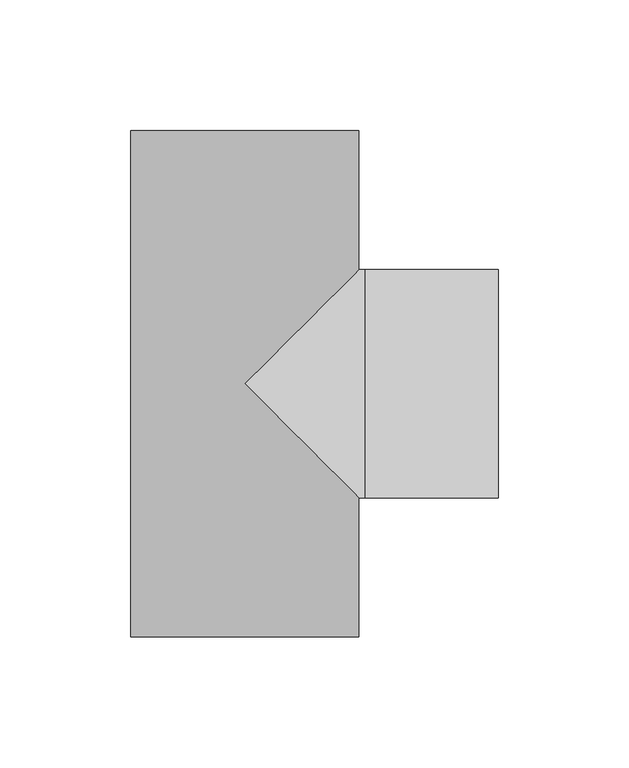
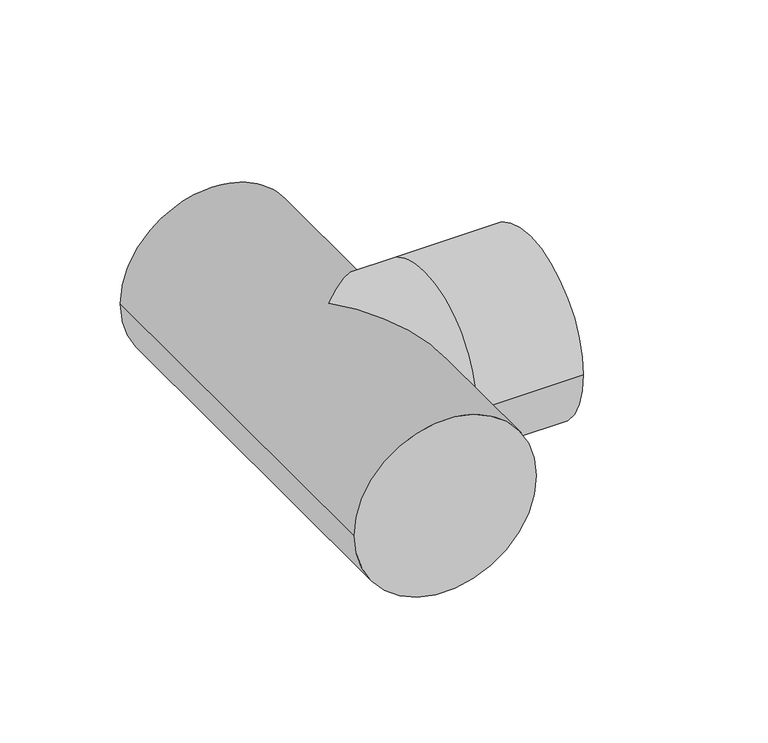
"""IFC4 building model written with IfcOpenShell, lengths in millimetres: pipe fitting geometry, 01051003 : Tes 90º."""

from ifc_helpers import new_model, si_unit, frame, origin, place, context, project, spatial, circle_curve, ellipse_curve, source, transform, mapped, element, save
from ifc_brep_helpers import plane_surface, cylinder_surface, advanced_brep


def pipe_fitting_1571cf48(model_context):
    return source(origin(), model_context, "Body", "AdvancedBrep", [
        advanced_brep(
        [(-43.7, 97.0, 0.0), (43.7, 97.0, 0.0), (-43.7, -97.0, 0.0), (43.7, -97.0, 0.0), (43.7, -43.7, 0.0), (0.0, 0.0, 43.7), (43.7, 43.7, 0.0), (0.0, 0.0, -43.7), (97.0, 43.7, 0.0), (97.0, -43.7, 0.0), (46.0, -43.7, 0.0), (46.0, 43.7, 0.0)],
        [
            (0, 1, circle_curve(frame((0.0, 97.0, 0.0), z_axis=(0.0, 1.0, 0.0), x_axis=(1.0, 0.0, 0.0)), 43.7)),
            (1, 0, circle_curve(frame((0.0, 97.0, 0.0), z_axis=(0.0, 1.0, 0.0), x_axis=(1.0, 0.0, 0.0)), 43.7)),
            (2, 3, circle_curve(frame((0.0, -97.0, 0.0), z_axis=(0.0, -1.0, 0.0), x_axis=(1.0, 0.0, 0.0)), 43.7)),
            (3, 2, circle_curve(frame((0.0, -97.0, 0.0), z_axis=(0.0, -1.0, 0.0), x_axis=(1.0, 0.0, 0.0)), 43.7)),
            (0, 2),
            (3, 4),
            (4, 5, ellipse_curve(frame((0.0, 0.0, 0.0), z_axis=(-0.7071067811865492, -0.7071067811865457, 0.0), x_axis=(-0.7071067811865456, 0.7071067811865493, 0.0)), 61.8011327, 43.7)),
            (5, 6, ellipse_curve(frame((0.0, 0.0, 0.0), z_axis=(-0.7071067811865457, 0.7071067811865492, 0.0), x_axis=(0.7071067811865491, 0.7071067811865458, 0.0)), 61.8011327, 43.7)),
            (6, 1),
            (6, 7, ellipse_curve(frame((0.0, 0.0, 0.0), z_axis=(-0.7071067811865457, 0.7071067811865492, 0.0), x_axis=(0.7071067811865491, 0.7071067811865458, 0.0)), 61.8011327, 43.7)),
            (7, 4, ellipse_curve(frame((0.0, 0.0, 0.0), z_axis=(-0.7071067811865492, -0.7071067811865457, 0.0), x_axis=(-0.7071067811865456, 0.7071067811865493, 0.0)), 61.8011327, 43.7)),
            (8, 9, circle_curve(frame((97.0, 0.0, 0.0), z_axis=(1.0, 0.0, 0.0), x_axis=(0.0, -1.0, 0.0)), 43.7)),
            (9, 8, circle_curve(frame((97.0, 0.0, 0.0), z_axis=(1.0, 0.0, 0.0), x_axis=(0.0, -1.0, 0.0)), 43.7)),
            (10, 11, circle_curve(frame((46.0, 0.0, 0.0), z_axis=(-1.0, 0.0, 0.0), x_axis=(0.0, -1.0, 0.0)), 43.7)),
            (11, 6),
            (4, 10),
            (11, 10, circle_curve(frame((46.0, 0.0, 0.0), z_axis=(-1.0, 0.0, 0.0), x_axis=(0.0, -1.0, 0.0)), 43.7)),
            (8, 11),
            (10, 9),
        ],
        [
            plane_surface(frame((0.0, 97.0, 0.0), z_axis=(0.0, 1.0, 0.0), x_axis=(0.0, 0.0, 1.0))),
            plane_surface(frame((0.0, -97.0, 0.0), z_axis=(0.0, -1.0, 0.0), x_axis=(0.0, 0.0, 1.0))),
            cylinder_surface(frame((0.0, 97.0, 0.0), z_axis=(0.0, 1.0, 0.0), x_axis=(1.0, 0.0, 0.0)), 43.7),
            plane_surface(frame((97.0, 0.0, 0.0), z_axis=(1.0, 0.0, 0.0), x_axis=(0.0, 0.0, 1.0))),
            cylinder_surface(frame((46.0, 0.0, 0.0), z_axis=(1.0, 0.0, 0.0), x_axis=(0.0, -1.0, 0.0)), 43.7),
            cylinder_surface(frame((97.0, 0.0, 0.0), z_axis=(1.0, 0.0, 0.0), x_axis=(0.0, -1.0, 0.0)), 43.7),
        ],
        [
            (0, [[1, 2]]),
            (1, [[3, 4]]),
            (2, [[-1, 5, -4, 6, 7, 8, 9]]),
            (2, [[-2, -9, 10, 11, -6, -3, -5]]),
            (3, [[12, 13]]),
            (4, [[14, 15, -8, -7, 16]]),
            (4, [[17, -16, -11, -10, -15]]),
            (5, [[-12, 18, -14, 19]]),
            (5, [[-13, -19, -17, -18]]),
        ],
    ),
    ])


if __name__ == "__main__":
    model = new_model("IFC4")
    model_context = context("Model", 3, world=origin())
    ifc_project = project(units=[si_unit("LENGTHUNIT", "METRE", prefix="MILLI")], contexts=[model_context])
    site = spatial("IfcSite", under=ifc_project)
    building = spatial("IfcBuilding", under=site)
    placement = place(None, origin())
    pipe_fitting_shape = pipe_fitting_1571cf48(model_context)
    element("IfcPipeFitting", 1, ObjectType="01051003 : Tes 90º", at=placement, inside=building, context=model_context, shape_type="MappedRepresentation", body=[
        mapped(pipe_fitting_shape, transform((0.0, 0.0, 0.0), x_axis=(1.0, 0.0, 0.0), y_axis=(0.0, 1.0, 0.0), z_axis=(0.0, 0.0, 1.0))),
    ])
    save(model, "model.ifc")
